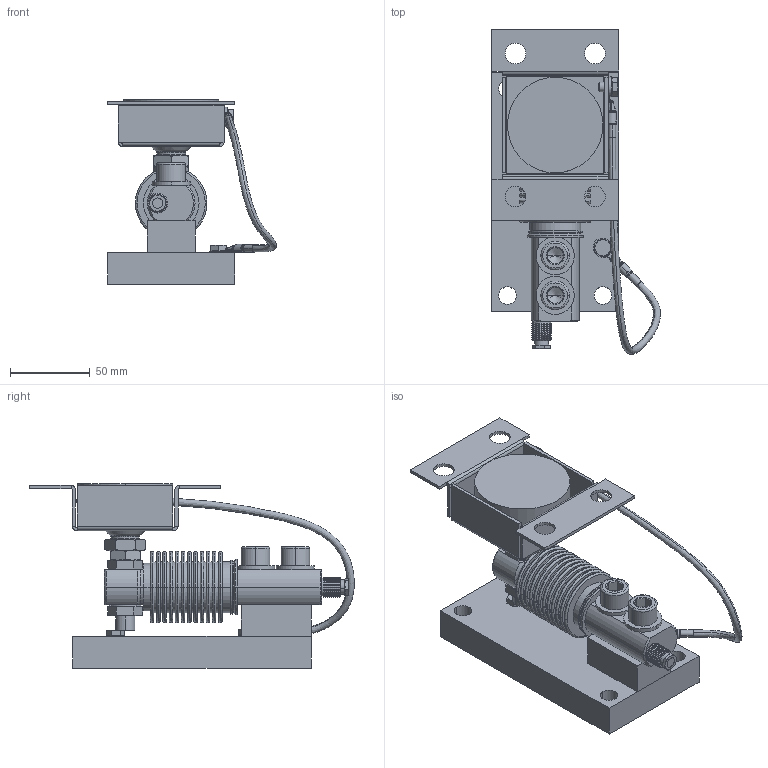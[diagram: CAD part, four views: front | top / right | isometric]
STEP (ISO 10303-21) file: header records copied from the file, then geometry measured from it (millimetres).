
FILE_DESCRIPTION((''),'1');
FILE_NAME('LMLAF_2000_kg.step','2020-06-29T10:46:39',(''),(''),'','','');
FILE_SCHEMA(('AUTOMOTIVE_DESIGN { 1 0 10303 214 1 1 1 1 }'));
Products named in the file (26): LMLAF 2000_kg; LMLAF part 03; LMLAF part 04; LMLAF part 06; LMLAF cable 01; LMLAF part 07; LMLAF cable 02; LMLAF screw 01; LMLAF screw 02; LMLAF part 08; LMLAF part 09; LMLAF nut 01; LMLAF part 10; LMLAF base 01; LMLAF nut 03; LMLAF screw 03; LMLAF screw 04; LMLAF load cell 01; LMLAF body 01; LMLAF cable gland 01; LMLAF screw 05; LMLAF part 11; LMLAF screw 06; LMLAF part 12
Assembly tree (32 placements, depth 4):
  LMLAF 2000_kg
    LMLAF 2000_kg
    LMLAF part 07
      LMLAF part 03
        LMLAF part 04
        LMLAF part 06
        LMLAF cable 01
      LMLAF cable 02
      LMLAF part 03
        LMLAF part 04
        LMLAF part 06
        LMLAF cable 01
    LMLAF screw 01  x2
    LMLAF screw 02
    LMLAF part 08
    LMLAF part 09
      LMLAF nut 01
      LMLAF part 10
      LMLAF base 01
    LMLAF nut 03  x2
    LMLAF screw 03  x2
    LMLAF screw 04  x2
    LMLAF load cell 01
      LMLAF body 01
      LMLAF cable gland 01
    LMLAF screw 05
    LMLAF part 11
    LMLAF screw 06
    LMLAF part 12
Bounding box: 106.17 x 204.04 x 116 mm (x, y, z)
Volume: 484580.3 mm3; surface area: 153164.7 mm2
Topology: 26 solids, 32 shells, 1029 faces, 2437 edges, 1497 vertices
Faces by surface type: plane 322, cylinder 292, cone 218, torus 114, bspline 78, extrusion 4, revolution 1
Entity records: 33153 total; most frequent: CARTESIAN_POINT 14018, DIRECTION 4096, ORIENTED_EDGE 3690, EDGE_CURVE 1857, AXIS2_PLACEMENT_3D 1682, VERTEX_POINT 1144, EDGE_LOOP 893, CIRCLE 890
